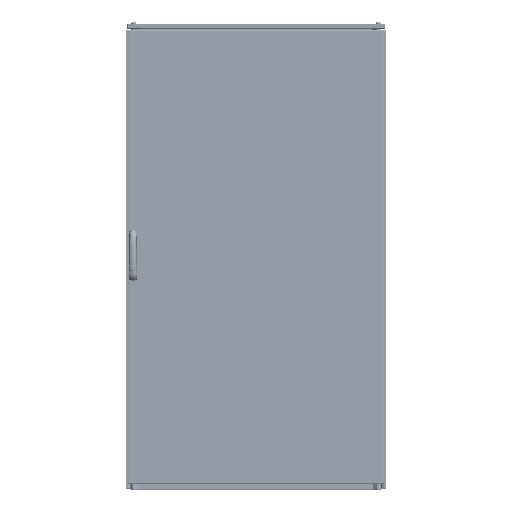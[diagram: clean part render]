
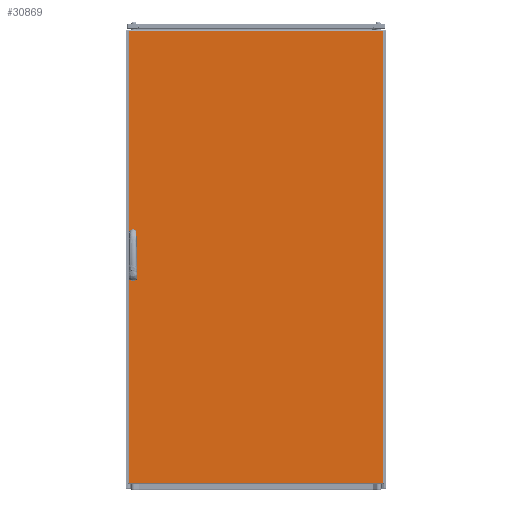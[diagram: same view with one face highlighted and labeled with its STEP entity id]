
A CAD part, top view. The second image highlights one B-rep face of the part: STEP entity #30869.
In plain terms, the highlighted planar face has unit normal (0, 0, 1).
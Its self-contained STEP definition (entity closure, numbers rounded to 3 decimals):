
#40 = ORIENTED_EDGE ( 'NONE', *, *, #113698, .F. ) ;
#2290 = DIRECTION ( 'NONE',  ( 0., 0., 1. ) ) ;
#4854 = DIRECTION ( 'NONE',  ( 0., 0., 1. ) ) ;
#11914 = EDGE_CURVE ( 'NONE', #94369, #317998, #196976, .T. ) ;
#12251 = EDGE_CURVE ( 'NONE', #124693, #78314, #250527, .T. ) ;
#22157 = VERTEX_POINT ( 'NONE', #223151 ) ;
#27445 = CARTESIAN_POINT ( 'NONE',  ( 28.7, 960.25, 19. ) ) ;
#29849 = LINE ( 'NONE', #282112, #51572 ) ;
#30867 = CARTESIAN_POINT ( 'NONE',  ( 0., 3., 19. ) ) ;
#30869 = ADVANCED_FACE ( 'NONE', ( #293798, #281767, #33072 ), #292041, .F. ) ;
#32233 = AXIS2_PLACEMENT_3D ( 'NONE', #204993, #126782, #70576 ) ;
#33072 = FACE_OUTER_BOUND ( 'NONE', #297724, .T. ) ;
#35909 = ORIENTED_EDGE ( 'NONE', *, *, #46659, .F. ) ;
#39026 = VECTOR ( 'NONE', #349076, 1000. ) ;
#46659 = EDGE_CURVE ( 'NONE', #138868, #236001, #283076, .T. ) ;
#49350 = DIRECTION ( 'NONE',  ( 1., 0., 0. ) ) ;
#51572 = VECTOR ( 'NONE', #311113, 1000. ) ;
#52885 = EDGE_LOOP ( 'NONE', ( #35909, #214526, #140306, #40 ) ) ;
#53104 = DIRECTION ( 'NONE',  ( 1., 0., 0. ) ) ;
#53351 = ORIENTED_EDGE ( 'NONE', *, *, #112448, .T. ) ;
#56695 = VECTOR ( 'NONE', #180403, 1000. ) ;
#69655 = CARTESIAN_POINT ( 'NONE',  ( 992., 1760., 19. ) ) ;
#70576 = DIRECTION ( 'NONE',  ( -1., 0., 0. ) ) ;
#78314 = VERTEX_POINT ( 'NONE', #312583 ) ;
#82550 = EDGE_CURVE ( 'NONE', #317998, #124693, #29849, .T. ) ;
#83860 = AXIS2_PLACEMENT_3D ( 'NONE', #329051, #336179, #53104 ) ;
#85065 = ORIENTED_EDGE ( 'NONE', *, *, #12251, .T. ) ;
#88431 = CARTESIAN_POINT ( 'NONE',  ( 3., 3., 19. ) ) ;
#91553 = CARTESIAN_POINT ( 'NONE',  ( 0., 1757., 19. ) ) ;
#94369 = VERTEX_POINT ( 'NONE', #207595 ) ;
#99273 = EDGE_CURVE ( 'NONE', #322034, #207084, #246051, .T. ) ;
#104646 = ORIENTED_EDGE ( 'NONE', *, *, #11914, .T. ) ;
#105888 = CARTESIAN_POINT ( 'NONE',  ( 19.2, 799.75, 19. ) ) ;
#112448 = EDGE_CURVE ( 'NONE', #78314, #94369, #207646, .T. ) ;
#113698 = EDGE_CURVE ( 'NONE', #236001, #135380, #283424, .T. ) ;
#114518 = DIRECTION ( 'NONE',  ( 0., 1., 0. ) ) ;
#117844 = DIRECTION ( 'NONE',  ( 0., -1., 0. ) ) ;
#118779 = EDGE_LOOP ( 'NONE', ( #310028, #343305, #245182, #317117 ) ) ;
#124693 = VERTEX_POINT ( 'NONE', #88431 ) ;
#125611 = CARTESIAN_POINT ( 'NONE',  ( 19.2, 847.75, 19. ) ) ;
#126782 = DIRECTION ( 'NONE',  ( 0., 0., -1. ) ) ;
#129211 = DIRECTION ( 'NONE',  ( 0., 0., 1. ) ) ;
#131146 = CARTESIAN_POINT ( 'NONE',  ( 9.7, 960.25, 19. ) ) ;
#135380 = VERTEX_POINT ( 'NONE', #218845 ) ;
#138868 = VERTEX_POINT ( 'NONE', #223451 ) ;
#140306 = ORIENTED_EDGE ( 'NONE', *, *, #255153, .F. ) ;
#142829 = EDGE_CURVE ( 'NONE', #323516, #247703, #315833, .T. ) ;
#161621 = AXIS2_PLACEMENT_3D ( 'NONE', #105888, #2290, #162156 ) ;
#162156 = DIRECTION ( 'NONE',  ( 1., 0., 0. ) ) ;
#167964 = EDGE_CURVE ( 'NONE', #22157, #138868, #191087, .T. ) ;
#175868 = AXIS2_PLACEMENT_3D ( 'NONE', #219232, #4854, #195562 ) ;
#180403 = DIRECTION ( 'NONE',  ( 0., 1., 0. ) ) ;
#189137 = CARTESIAN_POINT ( 'NONE',  ( 3., 1757., 19. ) ) ;
#189325 = CARTESIAN_POINT ( 'NONE',  ( 28.7, 847.75, 19. ) ) ;
#191087 = CIRCLE ( 'NONE', #260763, 9.5 ) ;
#195562 = DIRECTION ( 'NONE',  ( 1., 0., 0. ) ) ;
#196976 = LINE ( 'NONE', #91553, #222815 ) ;
#204993 = CARTESIAN_POINT ( 'NONE',  ( 0., 1760., 19. ) ) ;
#207084 = VERTEX_POINT ( 'NONE', #285445 ) ;
#207595 = CARTESIAN_POINT ( 'NONE',  ( 992., 1757., 19. ) ) ;
#207646 = LINE ( 'NONE', #69655, #56695 ) ;
#212854 = CARTESIAN_POINT ( 'NONE',  ( 9.7, 960.25, 19. ) ) ;
#214526 = ORIENTED_EDGE ( 'NONE', *, *, #167964, .F. ) ;
#218845 = CARTESIAN_POINT ( 'NONE',  ( 28.7, 799.75, 19. ) ) ;
#219232 = CARTESIAN_POINT ( 'NONE',  ( 19.2, 960.25, 19. ) ) ;
#222815 = VECTOR ( 'NONE', #334928, 1000. ) ;
#223151 = CARTESIAN_POINT ( 'NONE',  ( 28.7, 847.75, 19. ) ) ;
#223451 = CARTESIAN_POINT ( 'NONE',  ( 9.7, 847.75, 19. ) ) ;
#236001 = VERTEX_POINT ( 'NONE', #246689 ) ;
#238392 = DIRECTION ( 'NONE',  ( 0., 1., 0. ) ) ;
#245182 = ORIENTED_EDGE ( 'NONE', *, *, #315050, .F. ) ;
#246051 = CIRCLE ( 'NONE', #83860, 9.5 ) ;
#246689 = CARTESIAN_POINT ( 'NONE',  ( 9.7, 799.75, 19. ) ) ;
#247703 = VERTEX_POINT ( 'NONE', #131146 ) ;
#250527 = LINE ( 'NONE', #30867, #315326 ) ;
#254030 = CARTESIAN_POINT ( 'NONE',  ( 9.7, 847.75, 19. ) ) ;
#255153 = EDGE_CURVE ( 'NONE', #135380, #22157, #327332, .T. ) ;
#256519 = ORIENTED_EDGE ( 'NONE', *, *, #82550, .T. ) ;
#260763 = AXIS2_PLACEMENT_3D ( 'NONE', #125611, #129211, #49350 ) ;
#269138 = VECTOR ( 'NONE', #238392, 1000. ) ;
#281539 = LINE ( 'NONE', #27445, #292245 ) ;
#281767 = FACE_BOUND ( 'NONE', #118779, .T. ) ;
#282112 = CARTESIAN_POINT ( 'NONE',  ( 3., 1760., 19. ) ) ;
#283076 = LINE ( 'NONE', #254030, #300215 ) ;
#283424 = CIRCLE ( 'NONE', #161621, 9.5 ) ;
#284165 = EDGE_CURVE ( 'NONE', #247703, #322034, #290992, .T. ) ;
#285445 = CARTESIAN_POINT ( 'NONE',  ( 28.7, 912.25, 19. ) ) ;
#290992 = LINE ( 'NONE', #212854, #39026 ) ;
#292041 = PLANE ( 'NONE',  #32233 ) ;
#292245 = VECTOR ( 'NONE', #114518, 1000. ) ;
#293798 = FACE_BOUND ( 'NONE', #52885, .T. ) ;
#297724 = EDGE_LOOP ( 'NONE', ( #53351, #104646, #256519, #85065 ) ) ;
#300215 = VECTOR ( 'NONE', #117844, 1000. ) ;
#310028 = ORIENTED_EDGE ( 'NONE', *, *, #284165, .F. ) ;
#311113 = DIRECTION ( 'NONE',  ( 0., -1., 0. ) ) ;
#312583 = CARTESIAN_POINT ( 'NONE',  ( 992., 3., 19. ) ) ;
#315050 = EDGE_CURVE ( 'NONE', #207084, #323516, #281539, .T. ) ;
#315117 = CARTESIAN_POINT ( 'NONE',  ( 28.7, 960.25, 19. ) ) ;
#315326 = VECTOR ( 'NONE', #323766, 1000. ) ;
#315833 = CIRCLE ( 'NONE', #175868, 9.5 ) ;
#317117 = ORIENTED_EDGE ( 'NONE', *, *, #99273, .F. ) ;
#317998 = VERTEX_POINT ( 'NONE', #189137 ) ;
#322034 = VERTEX_POINT ( 'NONE', #336639 ) ;
#323516 = VERTEX_POINT ( 'NONE', #315117 ) ;
#323766 = DIRECTION ( 'NONE',  ( 1., 0., 0. ) ) ;
#327332 = LINE ( 'NONE', #189325, #269138 ) ;
#329051 = CARTESIAN_POINT ( 'NONE',  ( 19.2, 912.25, 19. ) ) ;
#334928 = DIRECTION ( 'NONE',  ( -1., 0., 0. ) ) ;
#336179 = DIRECTION ( 'NONE',  ( 0., 0., 1. ) ) ;
#336639 = CARTESIAN_POINT ( 'NONE',  ( 9.7, 912.25, 19. ) ) ;
#343305 = ORIENTED_EDGE ( 'NONE', *, *, #142829, .F. ) ;
#349076 = DIRECTION ( 'NONE',  ( 0., -1., 0. ) ) ;
